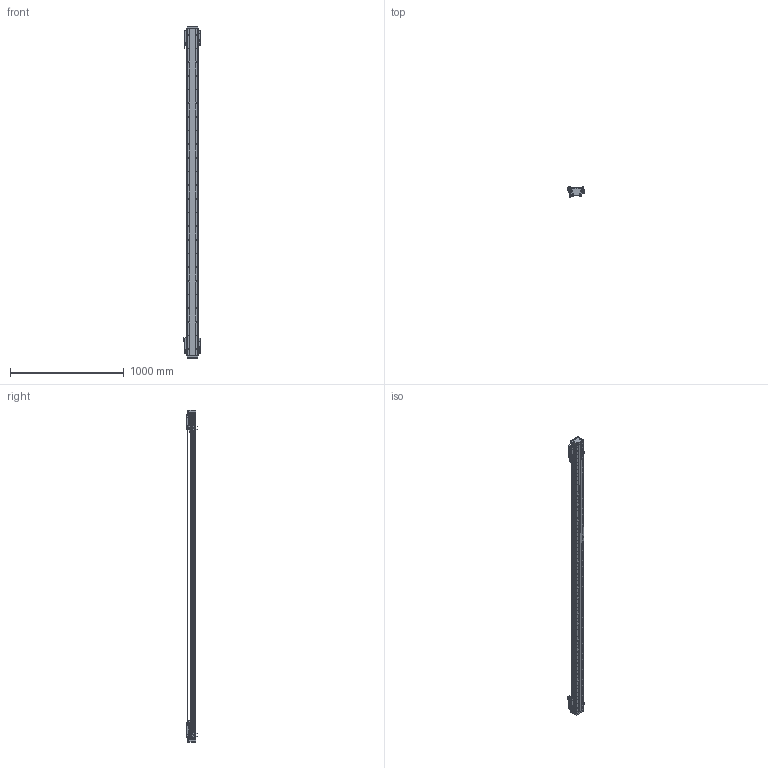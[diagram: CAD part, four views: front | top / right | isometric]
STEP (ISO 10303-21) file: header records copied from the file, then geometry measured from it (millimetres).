
FILE_DESCRIPTION (( 'STEP AP203' ), '1' );
FILE_NAME ('DA-B95-2-B15-T2540-C010-0.2 直线电机.STEP', '2023-05-06T06:40:42', ( '微软用户' ), ( '微软中国' ), 'SwSTEP 2.0', 'SolidWorks 2019', '' );
FILE_SCHEMA (( 'CONFIG_CONTROL_DESIGN' ));
Length unit declared in the file: millimetre
Products named in the file (34): B15 XD-U-02L ｴﾅﾕ､ｳﾟ^DA-A95-B15-T-C010-0.2-N ﾖｱﾏﾟｵ扈銈XD-U-02L; 复件 六角薄螺母 M3^DA-A95-B15-T-C010-0.2-N 直线电机_GB_FASTENER_NUT_STNAB M3-C; 复件 DKW-HXJ-JY-00 缓冲橡胶^DA-A95-B15-T-C010-0.2-N 直线电机; 66245-BU95-V 幗紩賑怢; IU-BU95-L-00 菁釱_L2880; 复件 DA95-DB-00  挡板^66245-BU95-V 滚珠滑台; 66245-BU95-V-00 珨极趙賑雄怢啣; 葩璃 DA95-GT-T-00^IU-BU95-L 菁釱絳寢_DA95; 复件 DA95-B15-YB-A-00 压板A^66245-BU95-V 滚珠滑台; 复件 DA95-B15 钢带盖板^DA-A95-B15-T-C010-0.2-N 直线电机; 复件 DKW-GYP-ZJ-00 中间光电感应片^DA-A95-B15-T-C010-0.2-N 直线电机; DA-B95-2-B15-T2540-C010-0.2 眻盄萇儂; 复件 DA95-B15-YB-B-00 压板B^66245-BU95-V 滚珠滑台; LMDK-2-R001-V5-L02-C1-F00，0.2M 读数头^DA-A95-B15-T-C010-0.2-N 直线电机_DMA-010-0.2; 复件 纯铜油杯 6x6mm^66245-BU95-V 滚珠滑台; PM-T45 光电开关^DA-A95-B15-T-C010-0.2-N 直线电机; 复件 DA95-DK-00 挡块^66245-BU95-V 滚珠滑台; IU-BU95-L 菁釱絳寢; 复件 复件 18252-0001-004-00 钢带端盖^DA-A95-B15-T-C010-0.2-N 直线电机; 复件 复件 18252-0001-003-00 钢带拉块^DA-A95-B15-T-C010-0.2-N 直线电机; 复件 DA95-HK-GT-00 滑块钢轨^66245-BU95-V-00 一体化滑动台板; 葩璃 BKM015-W060-C1-TP-DA-0.2^DA-A95-B15-T-C010-0.2-N 眻盄萇儂; 复件 66245-BU95-HT-V-01 滑动台板^66245-BU95-V-00 一体化滑动台板; DA95-HXJ-00 缓冲橡胶^DA-A95-B15-T-C010-0.2-N 直线电机; 复件 DA95-MFP-01 密封片^66245-BU95-V 滚珠滑台; DA-A95-GYP-00 光电感应片^DA-A95-B15-T-C010-0.2-N 直线电机; 葩璃 PM-Y45^DA-A95-B15-T-C010-0.2-N 眻盄萇儂; 葩璃 DA95-B15-DP-A-00 菜えA^66245-BU95-V 幗紩賑怢; 葩璃 BKMA01-W060-TRL^DA-A95-B15-T-C010-0.2-N 眻盄萇儂; 复件 复件 18252-0001-002-00 钢带垫块^DA-A95-B15-T-C010-0.2-N 直线电机; 复件 DKW-KGZ-ZJ-00 中间光电开关支架^DA-A95-B15-T-C010-0.2-N 直线电机; 葩璃 DA95-B15-DP--B-00 菜えB^66245-BU95-V 幗紩賑怢
Assembly tree (80 placements, depth 4):
  DA-B95-2-B15-T2540-C010-0.2 眻盄萇儂
    IU-BU95-L 菁釱絳寢
      IU-BU95-L-00 菁釱_L2880
      葩璃 DA95-GT-T-00^IU-BU95-L 菁釱絳寢_DA95  x2
    66245-BU95-V 幗紩賑怢
      66245-BU95-V-00 珨极趙賑雄怢啣
        复件 66245-BU95-HT-V-01 滑动台板^66245-BU95-V-00 一体化滑动台板
        复件 DA95-HK-GT-00 滑块钢轨^66245-BU95-V-00 一体化滑动台板  x2
      葩璃 DA95-B15-DP-A-00 菜えA^66245-BU95-V 幗紩賑怢
      复件 DA95-B15-YB-A-00 压板A^66245-BU95-V 滚珠滑台
      复件 DA95-B15-YB-B-00 压板B^66245-BU95-V 滚珠滑台
      复件 DA95-DB-00  挡板^66245-BU95-V 滚珠滑台  x4
      复件 DA95-DK-00 挡块^66245-BU95-V 滚珠滑台  x2
      复件 DA95-MFP-01 密封片^66245-BU95-V 滚珠滑台  x4
      复件 纯铜油杯 6x6mm^66245-BU95-V 滚珠滑台  x2
      葩璃 DA95-B15-DP--B-00 菜えB^66245-BU95-V 幗紩賑怢
    66245-BU95-V 幗紩賑怢
      66245-BU95-V-00 珨极趙賑雄怢啣
        复件 66245-BU95-HT-V-01 滑动台板^66245-BU95-V-00 一体化滑动台板
        复件 DA95-HK-GT-00 滑块钢轨^66245-BU95-V-00 一体化滑动台板  x2
      葩璃 DA95-B15-DP-A-00 菜えA^66245-BU95-V 幗紩賑怢
      复件 DA95-B15-YB-A-00 压板A^66245-BU95-V 滚珠滑台
      复件 DA95-B15-YB-B-00 压板B^66245-BU95-V 滚珠滑台
      复件 DA95-DB-00  挡板^66245-BU95-V 滚珠滑台  x4
      复件 DA95-DK-00 挡块^66245-BU95-V 滚珠滑台  x2
      复件 DA95-MFP-01 密封片^66245-BU95-V 滚珠滑台  x4
      复件 纯铜油杯 6x6mm^66245-BU95-V 滚珠滑台  x2
      葩璃 DA95-B15-DP--B-00 菜えB^66245-BU95-V 幗紩賑怢
    DA-A95-GYP-00 光电感应片^DA-A95-B15-T-C010-0.2-N 直线电机  x2
    LMDK-2-R001-V5-L02-C1-F00，0.2M 读数头^DA-A95-B15-T-C010-0.2-N 直线电机_DMA-010-0.2  x2
    复件 DKW-KGZ-ZJ-00 中间光电开关支架^DA-A95-B15-T-C010-0.2-N 直线电机
    葩璃 PM-Y45^DA-A95-B15-T-C010-0.2-N 眻盄萇儂
    复件 DKW-GYP-ZJ-00 中间光电感应片^DA-A95-B15-T-C010-0.2-N 直线电机
    葩璃 BKM015-W060-C1-TP-DA-0.2^DA-A95-B15-T-C010-0.2-N 眻盄萇儂  x2
    复件 DKW-HXJ-JY-00 缓冲橡胶^DA-A95-B15-T-C010-0.2-N 直线电机  x2
    PM-T45 光电开关^DA-A95-B15-T-C010-0.2-N 直线电机  x4
    B15 XD-U-02L ｴﾅﾕ､ｳﾟ^DA-A95-B15-T-C010-0.2-N ﾖｱﾏﾟｵ扈銈XD-U-02L
    复件 复件 18252-0001-003-00 钢带拉块^DA-A95-B15-T-C010-0.2-N 直线电机  x2
    复件 复件 18252-0001-002-00 钢带垫块^DA-A95-B15-T-C010-0.2-N 直线电机  x2
    复件 复件 18252-0001-004-00 钢带端盖^DA-A95-B15-T-C010-0.2-N 直线电机  x2
    复件 DA95-B15 钢带盖板^DA-A95-B15-T-C010-0.2-N 直线电机
    DA95-HXJ-00 缓冲橡胶^DA-A95-B15-T-C010-0.2-N 直线电机  x4
    葩璃 BKMA01-W060-TRL^DA-A95-B15-T-C010-0.2-N 眻盄萇儂
    复件 六角薄螺母 M3^DA-A95-B15-T-C010-0.2-N 直线电机_GB_FASTENER_NUT_STNAB M3-C  x6
Bounding box: 145.4 x 90.2 x 2916 mm (x, y, z)
Volume: 9295832.1 mm3; surface area: 3093194.1 mm2
Topology: 75 solids, 93 shells, 4360 faces, 12412 edges, 7887 vertices
Faces by surface type: cylinder 2277, plane 1551, cone 464, torus 64, sphere 4
Entity records: 109122 total; most frequent: CARTESIAN_POINT 29128, ORIENTED_EDGE 16182, DIRECTION 15526, EDGE_CURVE 8091, AXIS2_PLACEMENT_3D 5925, VERTEX_POINT 5289, LINE 3676, VECTOR 3676
